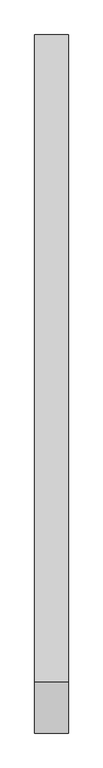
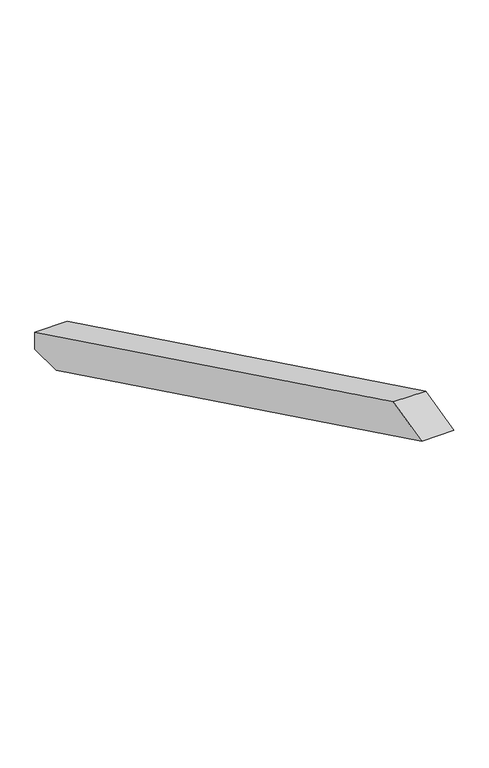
"""IFC4 building model written with IfcOpenShell, lengths in millimetres: proxy geometry, Modelos genéricos 154 : Modelos genéricos 16."""

from ifc_helpers import new_model, si_unit, frame, origin, place, context, project, spatial, polyline, outline, extrude, source, transform, mapped, element, save


def generic_models_e51e2f78(model_context):
    return source(origin(), model_context, "Body", "SweptSolid", [
        extrude(outline(polyline([(723.3927505, 3756.8218964), (1878.6238165, 3193.3780582), (1878.6238165, 3160.0), (1810.1886555, 3160.0), (632.8220197, 3734.240077), (723.3927505, 3756.8218964)])), frame((12873.4472467, 0.0, 0.0), z_axis=(1.0, 0.0, 0.0), x_axis=(0.0, 1.0, 0.0)), (0.0, 0.0, 1.0), 60.0),
    ])


if __name__ == "__main__":
    model = new_model("IFC4")
    model_context = context("Model", 3, world=origin())
    ifc_project = project(units=[si_unit("LENGTHUNIT", "METRE", prefix="MILLI")], contexts=[model_context])
    site = spatial("IfcSite", under=ifc_project)
    building = spatial("IfcBuilding", under=site)
    placement = place(None, origin())
    generic_models_shape = generic_models_e51e2f78(model_context)
    element("IfcBuildingElementProxy", 1, Name="Modelos genéricos 154 : Modelos genéricos 16", ObjectType="Modelos genéricos 154 : Modelos genéricos 16", at=placement, inside=building, context=model_context, shape_type="MappedRepresentation", body=[
        mapped(generic_models_shape, transform((0.0, 0.0, 0.0), x_axis=(1.0, 0.0, 0.0), y_axis=(0.0, 1.0, 0.0), z_axis=(0.0, 0.0, 1.0))),
    ])
    save(model, "model.ifc")
